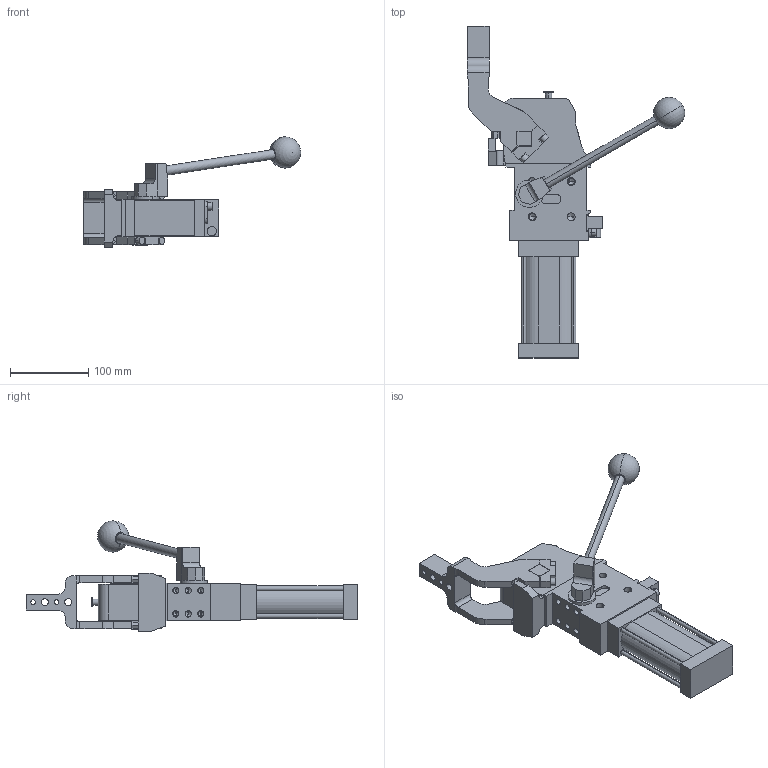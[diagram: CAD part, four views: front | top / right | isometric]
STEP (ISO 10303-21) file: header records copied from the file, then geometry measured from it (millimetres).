
FILE_DESCRIPTION (( 'STEP AP214' ), '1' );
FILE_NAME ('cplm50lath3ci1g_107.STEP', '2023-01-26T14:28:38', ( '' ), ( '' ), 'SwSTEP 2.0', 'SolidWorks 2022', '' );
FILE_SCHEMA (( 'AUTOMOTIVE_DESIGN' ));
Length unit declared in the file: millimetre
Products named in the file (5): cplm50lath3ci1g_107; meccanica_cplm_50_tassello_esterno; comando_manuale_cplm_50; leva_h3c_cpl50t; blocchetto_VEP_0
Assembly tree (4 placements, depth 2):
  cplm50lath3ci1g_107
    meccanica_cplm_50_tassello_esterno
    blocchetto_VEP_0
    leva_h3c_cpl50t
    comando_manuale_cplm_50
Bounding box: 278.06 x 424.5 x 141 mm (x, y, z)
Volume: 1504345 mm3; surface area: 190398.8 mm2
Topology: 4 solids, 4 shells, 468 faces, 1213 edges, 761 vertices
Faces by surface type: plane 247, cylinder 169, cone 50, sphere 2
Entity records: 15548 total; most frequent: CARTESIAN_POINT 2483, DIRECTION 2460, ORIENTED_EDGE 2324, EDGE_CURVE 1162, AXIS2_PLACEMENT_3D 833, VECTOR 794, LINE 794, VERTEX_POINT 758
